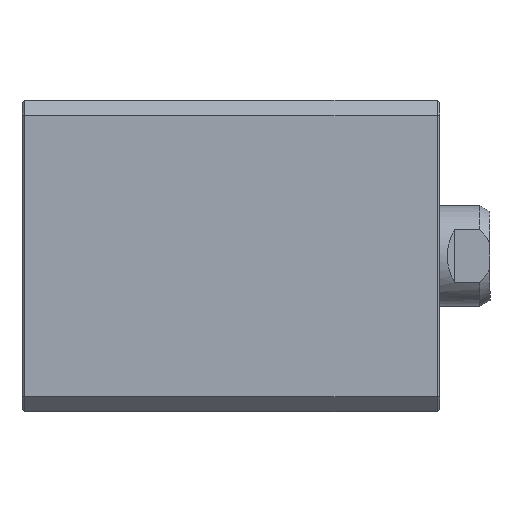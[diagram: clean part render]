
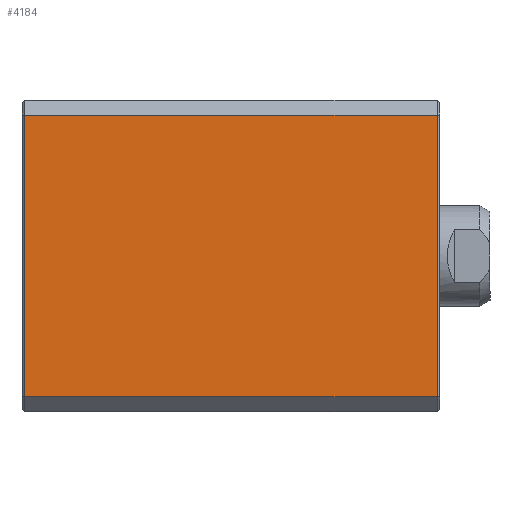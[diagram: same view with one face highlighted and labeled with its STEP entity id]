
A CAD part, left-side view. The second image highlights one B-rep face of the part: STEP entity #4184.
In plain terms, the highlighted planar face has unit normal (-1, 0, 0).
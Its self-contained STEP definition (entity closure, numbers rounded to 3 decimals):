
#228=LINE('',#6046,#522);
#231=LINE('',#6052,#525);
#232=LINE('',#6055,#526);
#233=LINE('',#6056,#527);
#522=VECTOR('',#4943,1000.);
#525=VECTOR('',#4948,1000.);
#526=VECTOR('',#4949,1000.);
#527=VECTOR('',#4950,1000.);
#727=PLANE('',#4417);
#1189=ORIENTED_EDGE('',*,*,#1840,.F.);
#1190=ORIENTED_EDGE('',*,*,#1841,.T.);
#1191=ORIENTED_EDGE('',*,*,#1837,.T.);
#1192=ORIENTED_EDGE('',*,*,#1842,.T.);
#1837=EDGE_CURVE('',#2169,#2170,#228,.T.);
#1840=EDGE_CURVE('',#2171,#2172,#231,.T.);
#1841=EDGE_CURVE('',#2171,#2169,#232,.T.);
#1842=EDGE_CURVE('',#2170,#2172,#233,.T.);
#2169=VERTEX_POINT('',#6047);
#2170=VERTEX_POINT('',#6048);
#2171=VERTEX_POINT('',#6053);
#2172=VERTEX_POINT('',#6054);
#2415=EDGE_LOOP('',(#1189,#1190,#1191,#1192));
#2651=FACE_BOUND('',#2415,.T.);
#4184=ADVANCED_FACE('',(#2651),#727,.F.);
#4417=AXIS2_PLACEMENT_3D('',#6051,#4946,#4947);
#4943=DIRECTION('',(0.,-1.,0.));
#4946=DIRECTION('',(1.,0.,0.));
#4947=DIRECTION('',(0.,0.,-1.));
#4948=DIRECTION('',(0.,-1.,0.));
#4949=DIRECTION('',(0.,0.,-1.));
#4950=DIRECTION('',(0.,0.,1.));
#6046=CARTESIAN_POINT('',(-31.,83.,-28.));
#6047=CARTESIAN_POINT('',(-31.,82.5,-28.));
#6048=CARTESIAN_POINT('',(-31.,0.5,-28.));
#6051=CARTESIAN_POINT('',(-31.,83.,28.));
#6052=CARTESIAN_POINT('',(-31.,83.,28.));
#6053=CARTESIAN_POINT('',(-31.,82.5,28.));
#6054=CARTESIAN_POINT('',(-31.,0.5,28.));
#6055=CARTESIAN_POINT('',(-31.,82.5,28.));
#6056=CARTESIAN_POINT('',(-31.,0.5,28.));
